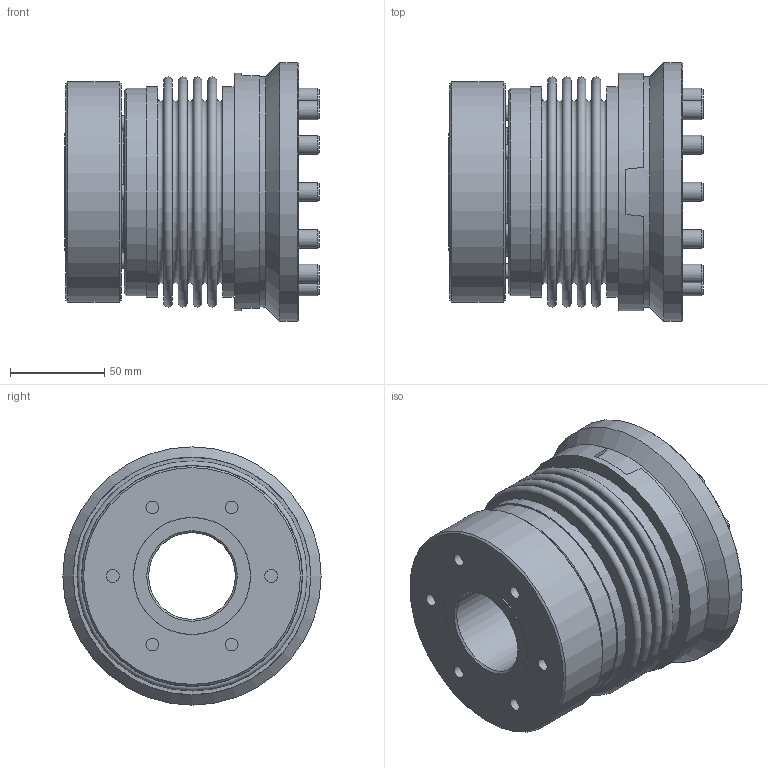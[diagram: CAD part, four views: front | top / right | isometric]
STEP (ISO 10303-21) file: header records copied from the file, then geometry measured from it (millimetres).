
FILE_DESCRIPTION( ( 'Unknown' ), '1' );
FILE_NAME( 'F:/JAKOB-STEP+IGES-Dateien/STEP-Dateien/KPP-F/KPP-F 700.stp', 'Unknown', ( 'Unknown' ), ( 'Unknown' ), 'PSStep 10.1', 'Unknown', ' ' );
FILE_SCHEMA( ( 'AUTOMOTIVE_DESIGN { 1 0 10303 214 1 1 1 1 }' ) );
Length unit declared in the file: millimetre
Products named in the file (1): 28521493
Bounding box: 134.99 x 137 x 137 mm (x, y, z)
Volume: 741062.3 mm3; surface area: 245079.7 mm2
Topology: 1 solids, 1 shells, 550 faces, 1241 edges, 788 vertices
Faces by surface type: plane 351, cylinder 119, cone 41, torus 39
Full cylindrical faces by diameter (mm): 6.8 x10, 8 x6, 8.6 x6, 10 x12, 10.4 x12, 12.5 x10, 13 x6, 13.5 x6, 16 x12, 17 x12, 46 x1, 65 x1, 68 x1, 71 x1, 110 x2, 111.6 x2, 117 x1, 122 x1, 126 x1, 130 x1, 137 x1
Entity records: 18232 total; most frequent: DIRECTION 2530, CARTESIAN_POINT 2265, ORIENTED_EDGE 1948, AXIS2_PLACEMENT_3D 1009, EDGE_CURVE 974, EDGE_LOOP 872, VERTEX_POINT 720, FACE_OUTER_BOUND 692
